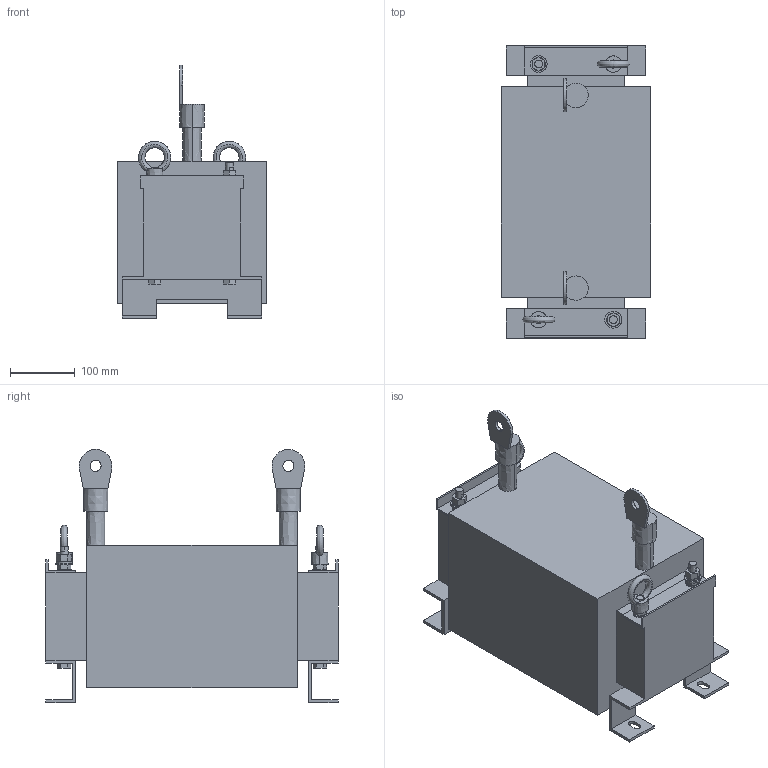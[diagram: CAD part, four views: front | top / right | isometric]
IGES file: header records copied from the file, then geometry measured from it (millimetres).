
Start section:  PTC IGES file: 3d-hel-n560.igs
Global section: file name: 3d-hel-n560.igs; native system: Pro/ENGINEER by Parametric Technology Corporation; preprocessor: 2011490; author: ZP59378; organization: Unknown; date: 20130718.204151; units: millimetre
Bounding box: 230 x 450 x 390 mm (x, y, z)
Volume: 19406049.1 mm3; surface area: 605922.1 mm2
Topology: 1 solids, 1 shells, 256 faces, 666 edges, 432 vertices
Faces by surface type: bspline 256
